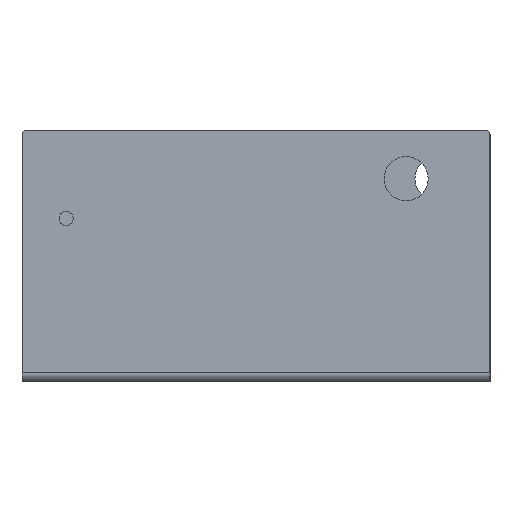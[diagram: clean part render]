
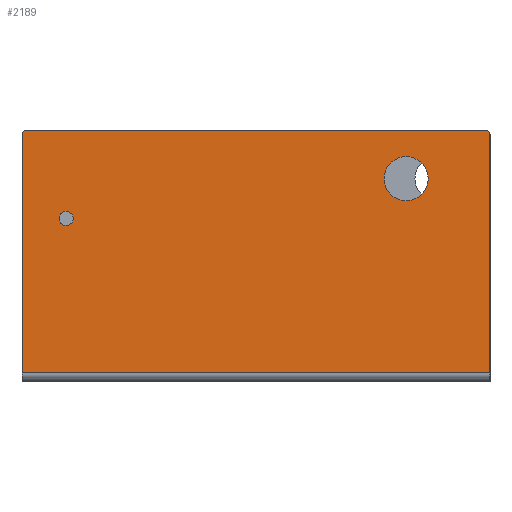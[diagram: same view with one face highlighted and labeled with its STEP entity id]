
A CAD part, left-side view. The second image highlights one B-rep face of the part: STEP entity #2189.
In plain terms, the highlighted planar face has unit normal (-1, 0, 0).
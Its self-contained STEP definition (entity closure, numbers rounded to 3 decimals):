
#1126 = CYLINDRICAL_SURFACE('',#1127,2.);
#1127 = AXIS2_PLACEMENT_3D('',#1128,#1129,#1130);
#1128 = CARTESIAN_POINT('',(0.,2.,2.));
#1129 = DIRECTION('',(0.,1.,0.));
#1130 = DIRECTION('',(0.,0.,-1.));
#1674 = VERTEX_POINT('',#1675);
#1675 = CARTESIAN_POINT('',(-2.,2.,2.));
#1689 = PLANE('',#1690);
#1690 = AXIS2_PLACEMENT_3D('',#1691,#1692,#1693);
#1691 = CARTESIAN_POINT('',(-2.,2.,57.));
#1692 = DIRECTION('',(0.,1.,0.));
#1693 = DIRECTION('',(0.,0.,-1.));
#1760 = EDGE_CURVE('',#1674,#1761,#1763,.T.);
#1761 = VERTEX_POINT('',#1762);
#1762 = CARTESIAN_POINT('',(-2.,108.,2.));
#1763 = SURFACE_CURVE('',#1764,(#1768,#1775),.PCURVE_S1.);
#1764 = LINE('',#1765,#1766);
#1765 = CARTESIAN_POINT('',(-2.,2.,2.));
#1766 = VECTOR('',#1767,1.);
#1767 = DIRECTION('',(0.,1.,0.));
#1768 = PCURVE('',#1126,#1769);
#1769 = DEFINITIONAL_REPRESENTATION('',(#1770),#1774);
#1770 = LINE('',#1771,#1772);
#1771 = CARTESIAN_POINT('',(1.571,0.));
#1772 = VECTOR('',#1773,1.);
#1773 = DIRECTION('',(0.,1.));
#1774 = ( GEOMETRIC_REPRESENTATION_CONTEXT(2) 
PARAMETRIC_REPRESENTATION_CONTEXT() REPRESENTATION_CONTEXT('2D SPACE',''
  ) );
#1775 = PCURVE('',#1776,#1781);
#1776 = PLANE('',#1777);
#1777 = AXIS2_PLACEMENT_3D('',#1778,#1779,#1780);
#1778 = CARTESIAN_POINT('',(-2.,55.,29.5));
#1779 = DIRECTION('',(1.,0.,0.));
#1780 = DIRECTION('',(0.,0.,-1.));
#1781 = DEFINITIONAL_REPRESENTATION('',(#1782),#1786);
#1782 = LINE('',#1783,#1784);
#1783 = CARTESIAN_POINT('',(27.5,-53.));
#1784 = VECTOR('',#1785,1.);
#1785 = DIRECTION('',(0.,1.));
#1786 = ( GEOMETRIC_REPRESENTATION_CONTEXT(2) 
PARAMETRIC_REPRESENTATION_CONTEXT() REPRESENTATION_CONTEXT('2D SPACE',''
  ) );
#2085 = EDGE_CURVE('',#2086,#1674,#2088,.T.);
#2086 = VERTEX_POINT('',#2087);
#2087 = CARTESIAN_POINT('',(-2.,2.,56.));
#2088 = SURFACE_CURVE('',#2089,(#2093,#2100),.PCURVE_S1.);
#2089 = LINE('',#2090,#2091);
#2090 = CARTESIAN_POINT('',(-2.,2.,57.));
#2091 = VECTOR('',#2092,1.);
#2092 = DIRECTION('',(0.,0.,-1.));
#2093 = PCURVE('',#1689,#2094);
#2094 = DEFINITIONAL_REPRESENTATION('',(#2095),#2099);
#2095 = LINE('',#2096,#2097);
#2096 = CARTESIAN_POINT('',(0.,0.));
#2097 = VECTOR('',#2098,1.);
#2098 = DIRECTION('',(1.,0.));
#2099 = ( GEOMETRIC_REPRESENTATION_CONTEXT(2) 
PARAMETRIC_REPRESENTATION_CONTEXT() REPRESENTATION_CONTEXT('2D SPACE',''
  ) );
#2100 = PCURVE('',#1776,#2101);
#2101 = DEFINITIONAL_REPRESENTATION('',(#2102),#2106);
#2102 = LINE('',#2103,#2104);
#2103 = CARTESIAN_POINT('',(-27.5,-53.));
#2104 = VECTOR('',#2105,1.);
#2105 = DIRECTION('',(1.,0.));
#2106 = ( GEOMETRIC_REPRESENTATION_CONTEXT(2) 
PARAMETRIC_REPRESENTATION_CONTEXT() REPRESENTATION_CONTEXT('2D SPACE',''
  ) );
#2124 = CYLINDRICAL_SURFACE('',#2125,1.);
#2125 = AXIS2_PLACEMENT_3D('',#2126,#2127,#2128);
#2126 = CARTESIAN_POINT('',(-2.,3.,56.));
#2127 = DIRECTION('',(1.,0.,0.));
#2128 = DIRECTION('',(0.,-1.,0.));
#2176 = PLANE('',#2177);
#2177 = AXIS2_PLACEMENT_3D('',#2178,#2179,#2180);
#2178 = CARTESIAN_POINT('',(-2.,108.,2.));
#2179 = DIRECTION('',(0.,-1.,0.));
#2180 = DIRECTION('',(0.,0.,1.));
#2189 = ADVANCED_FACE('',(#2190,#2304,#2335),#1776,.F.);
#2190 = FACE_BOUND('',#2191,.F.);
#2191 = EDGE_LOOP('',(#2192,#2215,#2248,#2276,#2302,#2303));
#2192 = ORIENTED_EDGE('',*,*,#2193,.T.);
#2193 = EDGE_CURVE('',#1761,#2194,#2196,.T.);
#2194 = VERTEX_POINT('',#2195);
#2195 = CARTESIAN_POINT('',(-2.,108.,56.));
#2196 = SURFACE_CURVE('',#2197,(#2201,#2208),.PCURVE_S1.);
#2197 = LINE('',#2198,#2199);
#2198 = CARTESIAN_POINT('',(-2.,108.,2.));
#2199 = VECTOR('',#2200,1.);
#2200 = DIRECTION('',(0.,0.,1.));
#2201 = PCURVE('',#1776,#2202);
#2202 = DEFINITIONAL_REPRESENTATION('',(#2203),#2207);
#2203 = LINE('',#2204,#2205);
#2204 = CARTESIAN_POINT('',(27.5,53.));
#2205 = VECTOR('',#2206,1.);
#2206 = DIRECTION('',(-1.,0.));
#2207 = ( GEOMETRIC_REPRESENTATION_CONTEXT(2) 
PARAMETRIC_REPRESENTATION_CONTEXT() REPRESENTATION_CONTEXT('2D SPACE',''
  ) );
#2208 = PCURVE('',#2176,#2209);
#2209 = DEFINITIONAL_REPRESENTATION('',(#2210),#2214);
#2210 = LINE('',#2211,#2212);
#2211 = CARTESIAN_POINT('',(0.,-0.));
#2212 = VECTOR('',#2213,1.);
#2213 = DIRECTION('',(1.,0.));
#2214 = ( GEOMETRIC_REPRESENTATION_CONTEXT(2) 
PARAMETRIC_REPRESENTATION_CONTEXT() REPRESENTATION_CONTEXT('2D SPACE',''
  ) );
#2215 = ORIENTED_EDGE('',*,*,#2216,.F.);
#2216 = EDGE_CURVE('',#2217,#2194,#2219,.T.);
#2217 = VERTEX_POINT('',#2218);
#2218 = CARTESIAN_POINT('',(-2.,107.,57.));
#2219 = SURFACE_CURVE('',#2220,(#2225,#2236),.PCURVE_S1.);
#2220 = CIRCLE('',#2221,1.);
#2221 = AXIS2_PLACEMENT_3D('',#2222,#2223,#2224);
#2222 = CARTESIAN_POINT('',(-2.,107.,56.));
#2223 = DIRECTION('',(-1.,0.,0.));
#2224 = DIRECTION('',(0.,0.,1.));
#2225 = PCURVE('',#1776,#2226);
#2226 = DEFINITIONAL_REPRESENTATION('',(#2227),#2235);
#2227 = ( BOUNDED_CURVE() B_SPLINE_CURVE(2,(#2228,#2229,#2230,#2231,
#2232,#2233,#2234),.UNSPECIFIED.,.T.,.F.) B_SPLINE_CURVE_WITH_KNOTS((1,2
    ,2,2,2,1),(-2.094,0.,2.094,4.189,
6.283,8.378),.UNSPECIFIED.) CURVE() 
GEOMETRIC_REPRESENTATION_ITEM() RATIONAL_B_SPLINE_CURVE((1.,0.5,1.,0.5,
1.,0.5,1.)) REPRESENTATION_ITEM('') );
#2228 = CARTESIAN_POINT('',(-27.5,52.));
#2229 = CARTESIAN_POINT('',(-27.5,53.732));
#2230 = CARTESIAN_POINT('',(-26.,52.866));
#2231 = CARTESIAN_POINT('',(-24.5,52.));
#2232 = CARTESIAN_POINT('',(-26.,51.134));
#2233 = CARTESIAN_POINT('',(-27.5,50.268));
#2234 = CARTESIAN_POINT('',(-27.5,52.));
#2235 = ( GEOMETRIC_REPRESENTATION_CONTEXT(2) 
PARAMETRIC_REPRESENTATION_CONTEXT() REPRESENTATION_CONTEXT('2D SPACE',''
  ) );
#2236 = PCURVE('',#2237,#2242);
#2237 = CYLINDRICAL_SURFACE('',#2238,1.);
#2238 = AXIS2_PLACEMENT_3D('',#2239,#2240,#2241);
#2239 = CARTESIAN_POINT('',(-2.,107.,56.));
#2240 = DIRECTION('',(1.,0.,0.));
#2241 = DIRECTION('',(0.,0.,1.));
#2242 = DEFINITIONAL_REPRESENTATION('',(#2243),#2247);
#2243 = LINE('',#2244,#2245);
#2244 = CARTESIAN_POINT('',(-0.,0.));
#2245 = VECTOR('',#2246,1.);
#2246 = DIRECTION('',(-1.,0.));
#2247 = ( GEOMETRIC_REPRESENTATION_CONTEXT(2) 
PARAMETRIC_REPRESENTATION_CONTEXT() REPRESENTATION_CONTEXT('2D SPACE',''
  ) );
#2248 = ORIENTED_EDGE('',*,*,#2249,.T.);
#2249 = EDGE_CURVE('',#2217,#2250,#2252,.T.);
#2250 = VERTEX_POINT('',#2251);
#2251 = CARTESIAN_POINT('',(-2.,3.,57.));
#2252 = SURFACE_CURVE('',#2253,(#2257,#2264),.PCURVE_S1.);
#2253 = LINE('',#2254,#2255);
#2254 = CARTESIAN_POINT('',(-2.,108.,57.));
#2255 = VECTOR('',#2256,1.);
#2256 = DIRECTION('',(0.,-1.,0.));
#2257 = PCURVE('',#1776,#2258);
#2258 = DEFINITIONAL_REPRESENTATION('',(#2259),#2263);
#2259 = LINE('',#2260,#2261);
#2260 = CARTESIAN_POINT('',(-27.5,53.));
#2261 = VECTOR('',#2262,1.);
#2262 = DIRECTION('',(0.,-1.));
#2263 = ( GEOMETRIC_REPRESENTATION_CONTEXT(2) 
PARAMETRIC_REPRESENTATION_CONTEXT() REPRESENTATION_CONTEXT('2D SPACE',''
  ) );
#2264 = PCURVE('',#2265,#2270);
#2265 = PLANE('',#2266);
#2266 = AXIS2_PLACEMENT_3D('',#2267,#2268,#2269);
#2267 = CARTESIAN_POINT('',(-2.,108.,57.));
#2268 = DIRECTION('',(0.,0.,-1.));
#2269 = DIRECTION('',(0.,-1.,0.));
#2270 = DEFINITIONAL_REPRESENTATION('',(#2271),#2275);
#2271 = LINE('',#2272,#2273);
#2272 = CARTESIAN_POINT('',(0.,0.));
#2273 = VECTOR('',#2274,1.);
#2274 = DIRECTION('',(1.,0.));
#2275 = ( GEOMETRIC_REPRESENTATION_CONTEXT(2) 
PARAMETRIC_REPRESENTATION_CONTEXT() REPRESENTATION_CONTEXT('2D SPACE',''
  ) );
#2276 = ORIENTED_EDGE('',*,*,#2277,.F.);
#2277 = EDGE_CURVE('',#2086,#2250,#2278,.T.);
#2278 = SURFACE_CURVE('',#2279,(#2284,#2295),.PCURVE_S1.);
#2279 = CIRCLE('',#2280,1.);
#2280 = AXIS2_PLACEMENT_3D('',#2281,#2282,#2283);
#2281 = CARTESIAN_POINT('',(-2.,3.,56.));
#2282 = DIRECTION('',(-1.,0.,0.));
#2283 = DIRECTION('',(0.,0.,1.));
#2284 = PCURVE('',#1776,#2285);
#2285 = DEFINITIONAL_REPRESENTATION('',(#2286),#2294);
#2286 = ( BOUNDED_CURVE() B_SPLINE_CURVE(2,(#2287,#2288,#2289,#2290,
#2291,#2292,#2293),.UNSPECIFIED.,.T.,.F.) B_SPLINE_CURVE_WITH_KNOTS((1,2
    ,2,2,2,1),(-2.094,0.,2.094,4.189,
6.283,8.378),.UNSPECIFIED.) CURVE() 
GEOMETRIC_REPRESENTATION_ITEM() RATIONAL_B_SPLINE_CURVE((1.,0.5,1.,0.5,
1.,0.5,1.)) REPRESENTATION_ITEM('') );
#2287 = CARTESIAN_POINT('',(-27.5,-52.));
#2288 = CARTESIAN_POINT('',(-27.5,-50.268));
#2289 = CARTESIAN_POINT('',(-26.,-51.134));
#2290 = CARTESIAN_POINT('',(-24.5,-52.));
#2291 = CARTESIAN_POINT('',(-26.,-52.866));
#2292 = CARTESIAN_POINT('',(-27.5,-53.732));
#2293 = CARTESIAN_POINT('',(-27.5,-52.));
#2294 = ( GEOMETRIC_REPRESENTATION_CONTEXT(2) 
PARAMETRIC_REPRESENTATION_CONTEXT() REPRESENTATION_CONTEXT('2D SPACE',''
  ) );
#2295 = PCURVE('',#2124,#2296);
#2296 = DEFINITIONAL_REPRESENTATION('',(#2297),#2301);
#2297 = LINE('',#2298,#2299);
#2298 = CARTESIAN_POINT('',(4.712,-0.));
#2299 = VECTOR('',#2300,1.);
#2300 = DIRECTION('',(-1.,0.));
#2301 = ( GEOMETRIC_REPRESENTATION_CONTEXT(2) 
PARAMETRIC_REPRESENTATION_CONTEXT() REPRESENTATION_CONTEXT('2D SPACE',''
  ) );
#2302 = ORIENTED_EDGE('',*,*,#2085,.T.);
#2303 = ORIENTED_EDGE('',*,*,#1760,.T.);
#2304 = FACE_BOUND('',#2305,.F.);
#2305 = EDGE_LOOP('',(#2306));
#2306 = ORIENTED_EDGE('',*,*,#2307,.F.);
#2307 = EDGE_CURVE('',#2308,#2308,#2310,.T.);
#2308 = VERTEX_POINT('',#2309);
#2309 = CARTESIAN_POINT('',(-2.,21.,41.));
#2310 = SURFACE_CURVE('',#2311,(#2316,#2323),.PCURVE_S1.);
#2311 = CIRCLE('',#2312,5.);
#2312 = AXIS2_PLACEMENT_3D('',#2313,#2314,#2315);
#2313 = CARTESIAN_POINT('',(-2.,21.,46.));
#2314 = DIRECTION('',(1.,-0.,0.));
#2315 = DIRECTION('',(0.,0.,-1.));
#2316 = PCURVE('',#1776,#2317);
#2317 = DEFINITIONAL_REPRESENTATION('',(#2318),#2322);
#2318 = CIRCLE('',#2319,5.);
#2319 = AXIS2_PLACEMENT_2D('',#2320,#2321);
#2320 = CARTESIAN_POINT('',(-16.5,-34.));
#2321 = DIRECTION('',(1.,0.));
#2322 = ( GEOMETRIC_REPRESENTATION_CONTEXT(2) 
PARAMETRIC_REPRESENTATION_CONTEXT() REPRESENTATION_CONTEXT('2D SPACE',''
  ) );
#2323 = PCURVE('',#2324,#2329);
#2324 = CYLINDRICAL_SURFACE('',#2325,5.);
#2325 = AXIS2_PLACEMENT_3D('',#2326,#2327,#2328);
#2326 = CARTESIAN_POINT('',(-8.,21.,46.));
#2327 = DIRECTION('',(1.,0.,0.));
#2328 = DIRECTION('',(0.,0.,-1.));
#2329 = DEFINITIONAL_REPRESENTATION('',(#2330),#2334);
#2330 = LINE('',#2331,#2332);
#2331 = CARTESIAN_POINT('',(0.,6.));
#2332 = VECTOR('',#2333,1.);
#2333 = DIRECTION('',(1.,0.));
#2334 = ( GEOMETRIC_REPRESENTATION_CONTEXT(2) 
PARAMETRIC_REPRESENTATION_CONTEXT() REPRESENTATION_CONTEXT('2D SPACE',''
  ) );
#2335 = FACE_BOUND('',#2336,.F.);
#2336 = EDGE_LOOP('',(#2337));
#2337 = ORIENTED_EDGE('',*,*,#2338,.F.);
#2338 = EDGE_CURVE('',#2339,#2339,#2341,.T.);
#2339 = VERTEX_POINT('',#2340);
#2340 = CARTESIAN_POINT('',(-2.,98.,35.4));
#2341 = SURFACE_CURVE('',#2342,(#2347,#2354),.PCURVE_S1.);
#2342 = CIRCLE('',#2343,1.6);
#2343 = AXIS2_PLACEMENT_3D('',#2344,#2345,#2346);
#2344 = CARTESIAN_POINT('',(-2.,98.,37.));
#2345 = DIRECTION('',(1.,0.,0.));
#2346 = DIRECTION('',(0.,0.,-1.));
#2347 = PCURVE('',#1776,#2348);
#2348 = DEFINITIONAL_REPRESENTATION('',(#2349),#2353);
#2349 = CIRCLE('',#2350,1.6);
#2350 = AXIS2_PLACEMENT_2D('',#2351,#2352);
#2351 = CARTESIAN_POINT('',(-7.5,43.));
#2352 = DIRECTION('',(1.,0.));
#2353 = ( GEOMETRIC_REPRESENTATION_CONTEXT(2) 
PARAMETRIC_REPRESENTATION_CONTEXT() REPRESENTATION_CONTEXT('2D SPACE',''
  ) );
#2354 = PCURVE('',#2355,#2360);
#2355 = CYLINDRICAL_SURFACE('',#2356,1.6);
#2356 = AXIS2_PLACEMENT_3D('',#2357,#2358,#2359);
#2357 = CARTESIAN_POINT('',(-6.,98.,37.));
#2358 = DIRECTION('',(1.,0.,0.));
#2359 = DIRECTION('',(0.,0.,-1.));
#2360 = DEFINITIONAL_REPRESENTATION('',(#2361),#2365);
#2361 = LINE('',#2362,#2363);
#2362 = CARTESIAN_POINT('',(0.,4.));
#2363 = VECTOR('',#2364,1.);
#2364 = DIRECTION('',(1.,0.));
#2365 = ( GEOMETRIC_REPRESENTATION_CONTEXT(2) 
PARAMETRIC_REPRESENTATION_CONTEXT() REPRESENTATION_CONTEXT('2D SPACE',''
  ) );
